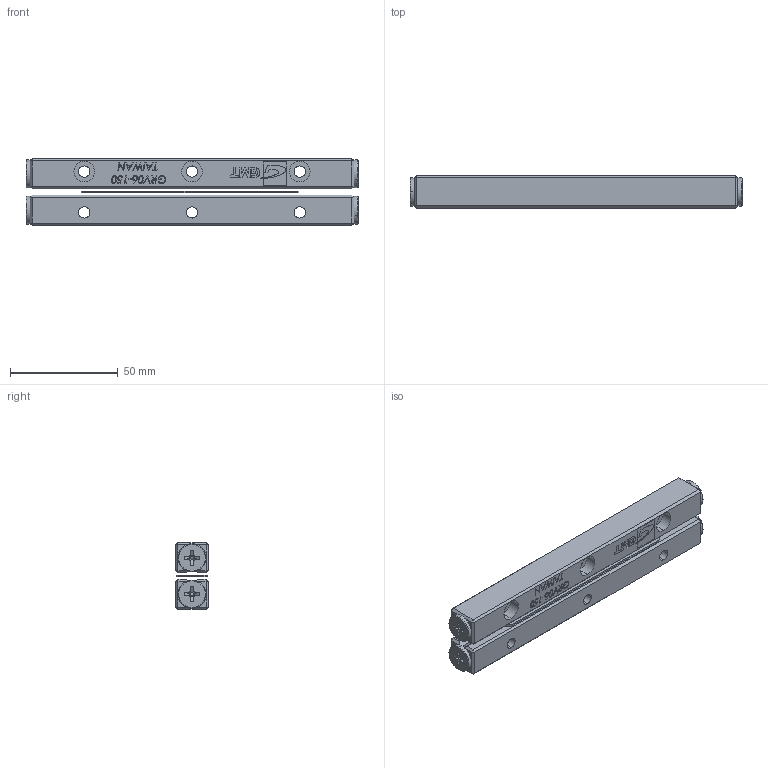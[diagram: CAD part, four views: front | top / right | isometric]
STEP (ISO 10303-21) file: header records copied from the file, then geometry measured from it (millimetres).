
FILE_DESCRIPTION (( 'STEP AP203' ), '1' );
FILE_NAME ('GRV06-150.STEP', '2012-10-17T03:31:45', ( '123' ), ( '' ), 'SwSTEP 2.0', 'SolidWorks 2012', '' );
FILE_SCHEMA (( 'CONFIG_CONTROL_DESIGN' ));
Length unit declared in the file: millimetre
Products named in the file (1): GRV06-150
Bounding box: 154 x 15 x 30.93 mm (x, y, z)
Surface area: 23560.2 mm2 (no closed solid volume)
Topology: 0 solids, 11 shells, 384 faces, 1749 edges, 1328 vertices
Faces by surface type: plane 284, cylinder 44, bspline 32, torus 16, cone 8
Entity records: 21816 total; most frequent: CARTESIAN_POINT 8310, DIRECTION 2515, ORIENTED_EDGE 2512, EDGE_CURVE 1749, VERTEX_POINT 1328, VECTOR 1177, LINE 1177, AXIS2_PLACEMENT_3D 669
